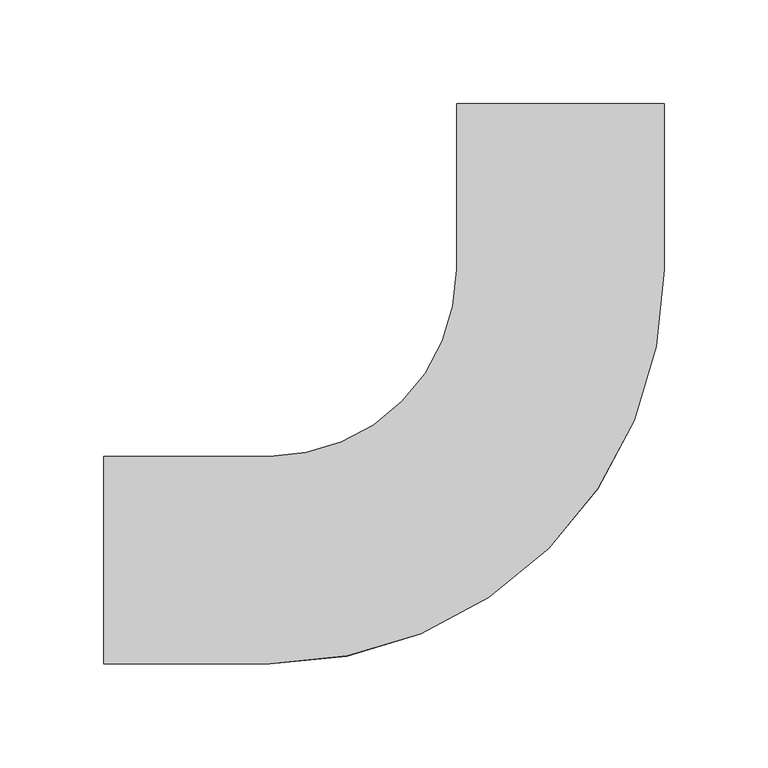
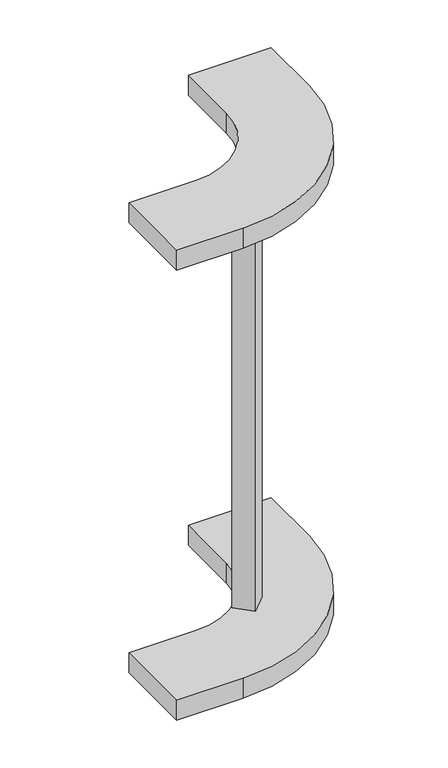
"""IFC4 building model written with IfcOpenShell, lengths in millimetres: cable carrier fitting geometry, Common_はしご垂直外側曲げ : 03 強電_低圧."""

from ifc_helpers import new_model, si_unit, point, frame, frame_2d, origin, place, context, project, spatial, polyline, circle_curve, trimmed, segment, composite_curve, outline, extrude, source, transform, mapped, element, save


def cable_carrier_fitting_154c38ec(model_context):
    return source(origin(), model_context, "Body", "SweptSolid", [
        extrude(outline(polyline([(-67.3801336, 85.3406458), (-49.4196213, 67.3801336), (-67.3801336, 49.4196213), (-85.3406458, 67.3801336), (-67.3801336, 85.3406458)])), frame((0.0, 0.0, -274.6), z_axis=(0.0, 0.0, 1.0), x_axis=(1.0, 0.0, 0.0)), (0.0, 0.0, 1.0), 549.2),
        extrude(outline(composite_curve([segment(polyline([(-220.0, -50.0), (-220.0, 50.0), (-140.0, 50.0)]), True, "CONTINUOUS"), segment(trimmed(circle_curve(frame_2d((-140.0, 140.0)), 90.0), [point((-140.0, 50.0))], [point((-50.0, 140.0))], True, "CARTESIAN"), True, "CONTINUOUS"), segment(polyline([(-50.0, 140.0), (-50.0, 220.0), (50.0, 220.0), (50.0, 140.0)]), True, "CONTINUOUS"), segment(trimmed(circle_curve(frame_2d((-140.0, 140.0)), 190.0), [point((50.0, 140.0))], [point((-140.0, -50.0))], False, "CARTESIAN"), True, "CONTINUOUS"), segment(polyline([(-140.0, -50.0), (-220.0, -50.0)]), True, "CONTINUOUS")], self_intersect=False)), frame((0.0, 0.0, 274.6), z_axis=(0.0, 0.0, 1.0), x_axis=(1.0, 0.0, 0.0)), (0.0, 0.0, 1.0), 25.4),
        extrude(outline(composite_curve([segment(polyline([(-220.0, -50.0), (-220.0, 50.0), (-140.0, 50.0)]), True, "CONTINUOUS"), segment(trimmed(circle_curve(frame_2d((-140.0, 140.0)), 90.0), [point((-140.0, 50.0))], [point((-50.0, 140.0))], True, "CARTESIAN"), True, "CONTINUOUS"), segment(polyline([(-50.0, 140.0), (-50.0, 220.0), (50.0, 220.0), (50.0, 140.0)]), True, "CONTINUOUS"), segment(trimmed(circle_curve(frame_2d((-140.0, 140.0)), 190.0), [point((50.0, 140.0))], [point((-140.0, -50.0))], False, "CARTESIAN"), True, "CONTINUOUS"), segment(polyline([(-140.0, -50.0), (-220.0, -50.0)]), True, "CONTINUOUS")], self_intersect=False)), frame((0.0, 0.0, -300.0), z_axis=(0.0, 0.0, 1.0), x_axis=(1.0, 0.0, 0.0)), (0.0, 0.0, 1.0), 25.4),
    ])


if __name__ == "__main__":
    model = new_model("IFC4")
    model_context = context("Model", 3, world=origin())
    ifc_project = project(units=[si_unit("LENGTHUNIT", "METRE", prefix="MILLI")], contexts=[model_context])
    site = spatial("IfcSite", under=ifc_project)
    building = spatial("IfcBuilding", under=site)
    placement = place(None, origin())
    cable_carrier_fitting_shape = cable_carrier_fitting_154c38ec(model_context)
    element("IfcCableCarrierFitting", 1, ObjectType="Common_はしご垂直外側曲げ : 03 強電_低圧", at=placement, inside=building, context=model_context, shape_type="MappedRepresentation", body=[
        mapped(cable_carrier_fitting_shape, transform((0.0, 0.0, 0.0), x_axis=(1.0, 0.0, 0.0), y_axis=(0.0, 1.0, 0.0), z_axis=(0.0, 0.0, 1.0))),
    ])
    save(model, "model.ifc")
